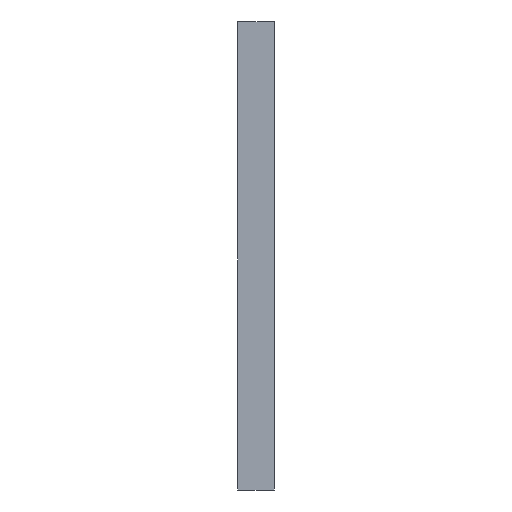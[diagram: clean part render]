
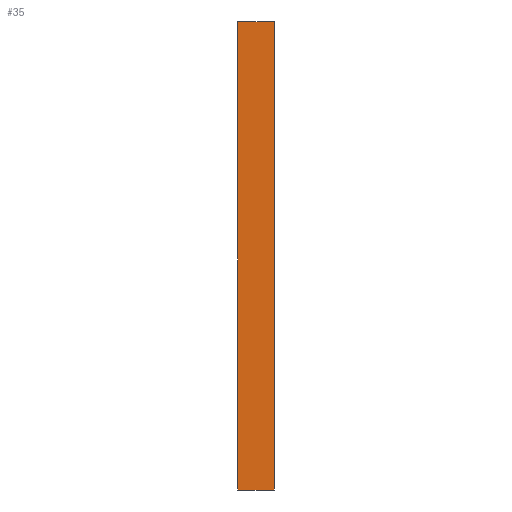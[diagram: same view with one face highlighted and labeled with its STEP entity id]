
A CAD part, left-side view. The second image highlights one B-rep face of the part: STEP entity #35.
In plain terms, the highlighted planar face has unit normal (-1, 0, 0).
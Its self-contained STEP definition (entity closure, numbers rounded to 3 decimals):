
#35 = ADVANCED_FACE('',(#36),#50,.T.);
#36 = FACE_BOUND('',#37,.T.);
#37 = EDGE_LOOP('',(#38,#73,#101,#129));
#38 = ORIENTED_EDGE('',*,*,#39,.T.);
#39 = EDGE_CURVE('',#40,#42,#44,.T.);
#40 = VERTEX_POINT('',#41);
#41 = CARTESIAN_POINT('',(-69.45,-19.38,0.));
#42 = VERTEX_POINT('',#43);
#43 = CARTESIAN_POINT('',(-69.45,-19.38,2.995));
#44 = SURFACE_CURVE('',#45,(#49,#61),.PCURVE_S1.);
#45 = LINE('',#46,#47);
#46 = CARTESIAN_POINT('',(-69.45,-19.38,0.));
#47 = VECTOR('',#48,1.);
#48 = DIRECTION('',(0.,0.,1.));
#49 = PCURVE('',#50,#55);
#50 = PLANE('',#51);
#51 = AXIS2_PLACEMENT_3D('',#52,#53,#54);
#52 = CARTESIAN_POINT('',(-69.45,-19.38,0.));
#53 = DIRECTION('',(-1.,0.,0.));
#54 = DIRECTION('',(0.,1.,0.));
#55 = DEFINITIONAL_REPRESENTATION('',(#56),#60);
#56 = LINE('',#57,#58);
#57 = CARTESIAN_POINT('',(0.,0.));
#58 = VECTOR('',#59,1.);
#59 = DIRECTION('',(0.,-1.));
#60 = ( GEOMETRIC_REPRESENTATION_CONTEXT(2) 
PARAMETRIC_REPRESENTATION_CONTEXT() REPRESENTATION_CONTEXT('2D SPACE',''
  ) );
#61 = PCURVE('',#62,#67);
#62 = PLANE('',#63);
#63 = AXIS2_PLACEMENT_3D('',#64,#65,#66);
#64 = CARTESIAN_POINT('',(-69.45,-19.38,0.));
#65 = DIRECTION('',(0.,1.,0.));
#66 = DIRECTION('',(1.,0.,0.));
#67 = DEFINITIONAL_REPRESENTATION('',(#68),#72);
#68 = LINE('',#69,#70);
#69 = CARTESIAN_POINT('',(0.,0.));
#70 = VECTOR('',#71,1.);
#71 = DIRECTION('',(0.,-1.));
#72 = ( GEOMETRIC_REPRESENTATION_CONTEXT(2) 
PARAMETRIC_REPRESENTATION_CONTEXT() REPRESENTATION_CONTEXT('2D SPACE',''
  ) );
#73 = ORIENTED_EDGE('',*,*,#74,.T.);
#74 = EDGE_CURVE('',#42,#75,#77,.T.);
#75 = VERTEX_POINT('',#76);
#76 = CARTESIAN_POINT('',(-69.45,19.38,2.995));
#77 = SURFACE_CURVE('',#78,(#82,#89),.PCURVE_S1.);
#78 = LINE('',#79,#80);
#79 = CARTESIAN_POINT('',(-69.45,0.,2.995));
#80 = VECTOR('',#81,1.);
#81 = DIRECTION('',(0.,1.,0.));
#82 = PCURVE('',#50,#83);
#83 = DEFINITIONAL_REPRESENTATION('',(#84),#88);
#84 = LINE('',#85,#86);
#85 = CARTESIAN_POINT('',(19.38,-2.995));
#86 = VECTOR('',#87,1.);
#87 = DIRECTION('',(1.,0.));
#88 = ( GEOMETRIC_REPRESENTATION_CONTEXT(2) 
PARAMETRIC_REPRESENTATION_CONTEXT() REPRESENTATION_CONTEXT('2D SPACE',''
  ) );
#89 = PCURVE('',#90,#95);
#90 = PLANE('',#91);
#91 = AXIS2_PLACEMENT_3D('',#92,#93,#94);
#92 = CARTESIAN_POINT('',(0.,0.,2.995));
#93 = DIRECTION('',(0.,0.,1.));
#94 = DIRECTION('',(1.,0.,0.));
#95 = DEFINITIONAL_REPRESENTATION('',(#96),#100);
#96 = LINE('',#97,#98);
#97 = CARTESIAN_POINT('',(-69.45,0.));
#98 = VECTOR('',#99,1.);
#99 = DIRECTION('',(0.,1.));
#100 = ( GEOMETRIC_REPRESENTATION_CONTEXT(2) 
PARAMETRIC_REPRESENTATION_CONTEXT() REPRESENTATION_CONTEXT('2D SPACE',''
  ) );
#101 = ORIENTED_EDGE('',*,*,#102,.F.);
#102 = EDGE_CURVE('',#103,#75,#105,.T.);
#103 = VERTEX_POINT('',#104);
#104 = CARTESIAN_POINT('',(-69.45,19.38,0.));
#105 = SURFACE_CURVE('',#106,(#110,#117),.PCURVE_S1.);
#106 = LINE('',#107,#108);
#107 = CARTESIAN_POINT('',(-69.45,19.38,0.));
#108 = VECTOR('',#109,1.);
#109 = DIRECTION('',(0.,0.,1.));
#110 = PCURVE('',#50,#111);
#111 = DEFINITIONAL_REPRESENTATION('',(#112),#116);
#112 = LINE('',#113,#114);
#113 = CARTESIAN_POINT('',(38.76,0.));
#114 = VECTOR('',#115,1.);
#115 = DIRECTION('',(0.,-1.));
#116 = ( GEOMETRIC_REPRESENTATION_CONTEXT(2) 
PARAMETRIC_REPRESENTATION_CONTEXT() REPRESENTATION_CONTEXT('2D SPACE',''
  ) );
#117 = PCURVE('',#118,#123);
#118 = PLANE('',#119);
#119 = AXIS2_PLACEMENT_3D('',#120,#121,#122);
#120 = CARTESIAN_POINT('',(-69.45,19.38,0.));
#121 = DIRECTION('',(0.,1.,0.));
#122 = DIRECTION('',(1.,0.,0.));
#123 = DEFINITIONAL_REPRESENTATION('',(#124),#128);
#124 = LINE('',#125,#126);
#125 = CARTESIAN_POINT('',(0.,0.));
#126 = VECTOR('',#127,1.);
#127 = DIRECTION('',(0.,-1.));
#128 = ( GEOMETRIC_REPRESENTATION_CONTEXT(2) 
PARAMETRIC_REPRESENTATION_CONTEXT() REPRESENTATION_CONTEXT('2D SPACE',''
  ) );
#129 = ORIENTED_EDGE('',*,*,#130,.F.);
#130 = EDGE_CURVE('',#40,#103,#131,.T.);
#131 = SURFACE_CURVE('',#132,(#136,#143),.PCURVE_S1.);
#132 = LINE('',#133,#134);
#133 = CARTESIAN_POINT('',(-69.45,0.,0.));
#134 = VECTOR('',#135,1.);
#135 = DIRECTION('',(0.,1.,0.));
#136 = PCURVE('',#50,#137);
#137 = DEFINITIONAL_REPRESENTATION('',(#138),#142);
#138 = LINE('',#139,#140);
#139 = CARTESIAN_POINT('',(19.38,0.));
#140 = VECTOR('',#141,1.);
#141 = DIRECTION('',(1.,0.));
#142 = ( GEOMETRIC_REPRESENTATION_CONTEXT(2) 
PARAMETRIC_REPRESENTATION_CONTEXT() REPRESENTATION_CONTEXT('2D SPACE',''
  ) );
#143 = PCURVE('',#144,#149);
#144 = PLANE('',#145);
#145 = AXIS2_PLACEMENT_3D('',#146,#147,#148);
#146 = CARTESIAN_POINT('',(0.,0.,0.));
#147 = DIRECTION('',(0.,0.,1.));
#148 = DIRECTION('',(1.,0.,0.));
#149 = DEFINITIONAL_REPRESENTATION('',(#150),#154);
#150 = LINE('',#151,#152);
#151 = CARTESIAN_POINT('',(-69.45,0.));
#152 = VECTOR('',#153,1.);
#153 = DIRECTION('',(0.,1.));
#154 = ( GEOMETRIC_REPRESENTATION_CONTEXT(2) 
PARAMETRIC_REPRESENTATION_CONTEXT() REPRESENTATION_CONTEXT('2D SPACE',''
  ) );
